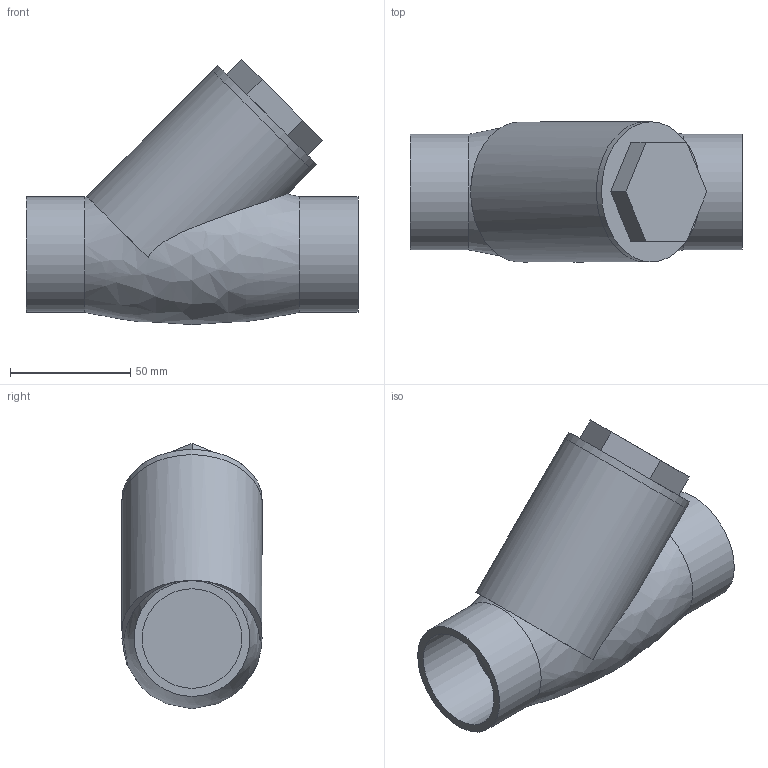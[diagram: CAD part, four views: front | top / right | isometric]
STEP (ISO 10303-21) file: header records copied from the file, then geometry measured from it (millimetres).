
FILE_DESCRIPTION((' '),'2;1');
FILE_NAME('N:\Technical Support\Private\Jomar Valve CAD\Ball Valves\Brass\S-511[G]\1.5 S-511[G] (105-407[G])FusionCopy.stp.step','2017-05-02T14:41:48',(' '),(' '),' ','ACIS',' ');
FILE_SCHEMA(('CONFIG_CONTROL_DESIGN'));
Length unit declared in the file: inch
Products named in the file (3): N:\Technical Support\Private\Jomar Valve CAD\Ball Valves\Brass\S-511[G]\1.5 S-511[G] (105-407[G])FusionCopy.stp.step; Body1; Body2
Assembly tree (2 placements, depth 2):
  N:\Technical Support\Private\Jomar Valve CAD\Ball Valves\Brass\S-511[G]\1.5 S-511[G] (105-407[G])FusionCopy.stp.step
    Body1
    Body2
Bounding box: 137.79 x 58.17 x 110.07 mm (x, y, z)
Volume: 367204.7 mm3; surface area: 49020.3 mm2
Topology: 2 solids, 2 shells, 23 faces, 46 edges, 30 vertices
Faces by surface type: plane 16, cylinder 6, bspline 1
Full cylindrical faces by diameter (mm): 41.326 x2, 48.006 x2, 58.166 x2
Entity records: 1013 total; most frequent: CARTESIAN_POINT 193, DIRECTION 98, ORIENTED_EDGE 70, AXIS2_PLACEMENT_3D 40, EDGE_CURVE 35, EDGE_LOOP 34, PERSON 28, ORGANIZATION 28
